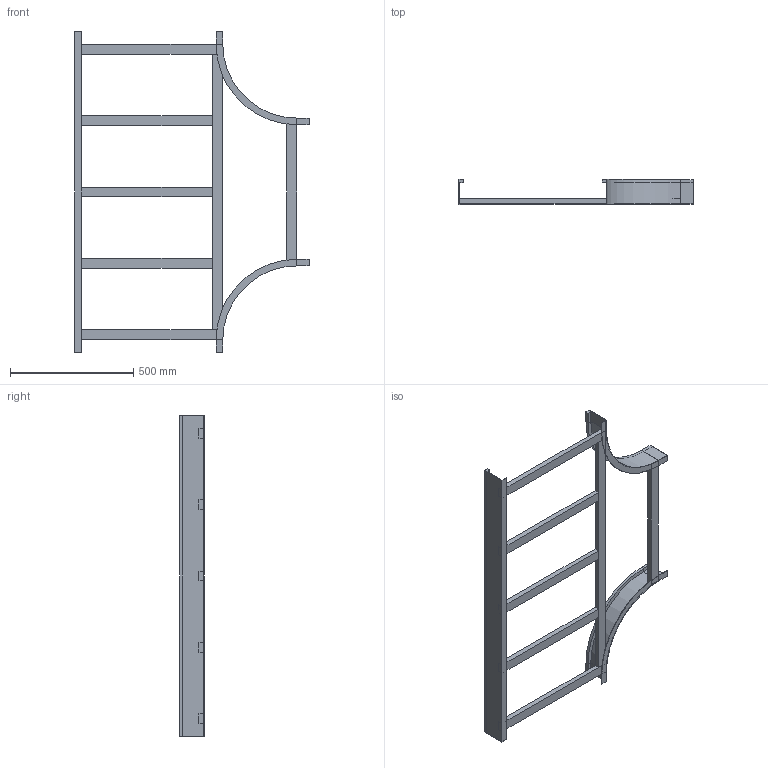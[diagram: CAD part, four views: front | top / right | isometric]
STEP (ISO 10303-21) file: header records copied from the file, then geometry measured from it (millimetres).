
FILE_DESCRIPTION (( 'STEP AP214' ), '1' );
FILE_NAME ('B2_15B3D600.step', '2025-02-21T15:50:19', ( '' ), ( '' ), 'SwSTEP 2.0', 'SolidWorks 2023', '' );
FILE_SCHEMA (( 'AUTOMOTIVE_DESIGN' ));
Length unit declared in the file: millimetre
Products named in the file (6): B2_TRAVERSINO_LONG._R300+600; B2_15B3D600; TRAVERSINO_600; TRAVERSINO_INTERMEDIO_R300+600; B2_LONGH.INTERNO 90°_H100_R300; B2_LONGH.RETT_H100_R300+600
Assembly tree (10 placements, depth 2):
  B2_15B3D600
    B2_LONGH.INTERNO 90°_H100_R300  x2
    B2_LONGH.RETT_H100_R300+600
    TRAVERSINO_600  x3
    B2_TRAVERSINO_LONG._R300+600
    TRAVERSINO_INTERMEDIO_R300+600  x3
Bounding box: 950 x 100 x 1300 mm (x, y, z)
Volume: 4793048 mm3; surface area: 1270618.3 mm2
Topology: 10 solids, 10 shells, 104 faces, 220 edges, 136 vertices
Faces by surface type: plane 96, cylinder 8
Entity records: 1647 total; most frequent: DIRECTION 258, CARTESIAN_POINT 255, ORIENTED_EDGE 232, EDGE_CURVE 116, VECTOR 108, LINE 108, AXIS2_PLACEMENT_3D 75, VERTEX_POINT 72
